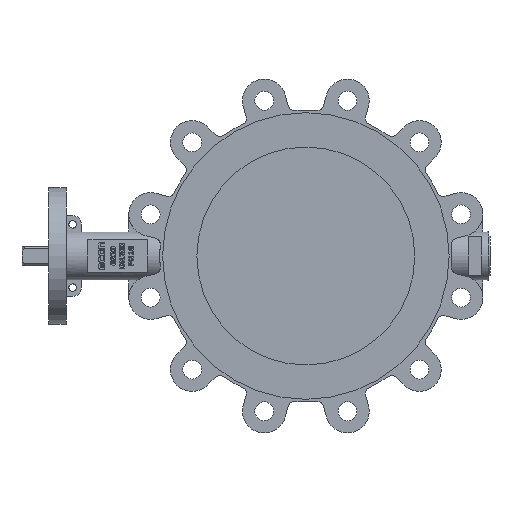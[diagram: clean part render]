
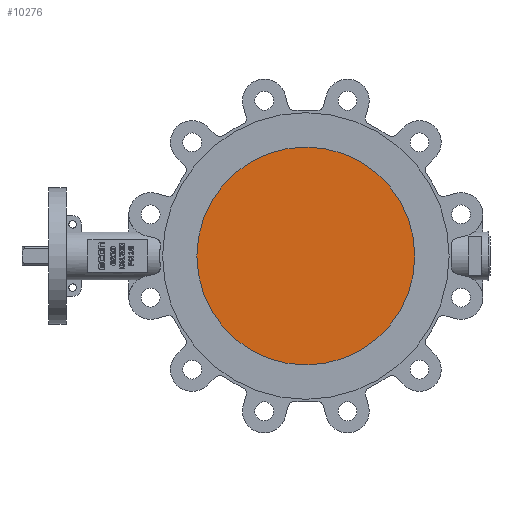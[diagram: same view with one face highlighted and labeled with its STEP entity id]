
A CAD part, left-side view. The second image highlights one B-rep face of the part: STEP entity #10276.
In plain terms, the highlighted planar face has unit normal (-1, 0, 0).
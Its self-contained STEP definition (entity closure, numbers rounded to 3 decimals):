
#801=PLANE('',#10944);
#1318=FACE_OUTER_BOUND('',#1903,.T.);
#1903=EDGE_LOOP('',(#9026));
#3906=CIRCLE('',#10943,100.);
#4843=VERTEX_POINT('',#18359);
#6252=EDGE_CURVE('',#4843,#4843,#3906,.T.);
#9026=ORIENTED_EDGE('',*,*,#6252,.F.);
#10276=ADVANCED_FACE('',(#1318),#801,.F.);
#10943=AXIS2_PLACEMENT_3D('',#18361,#13058,#13059);
#10944=AXIS2_PLACEMENT_3D('',#18362,#13060,#13061);
#13058=DIRECTION('center_axis',(1.,0.,0.));
#13059=DIRECTION('ref_axis',(0.,0.,-1.));
#13060=DIRECTION('center_axis',(1.,0.,0.));
#13061=DIRECTION('ref_axis',(0.,0.,-1.));
#18359=CARTESIAN_POINT('',(-21.415,-46.794,100.));
#18361=CARTESIAN_POINT('Origin',(-21.415,-46.794,0.));
#18362=CARTESIAN_POINT('Origin',(-21.415,-46.794,0.));
